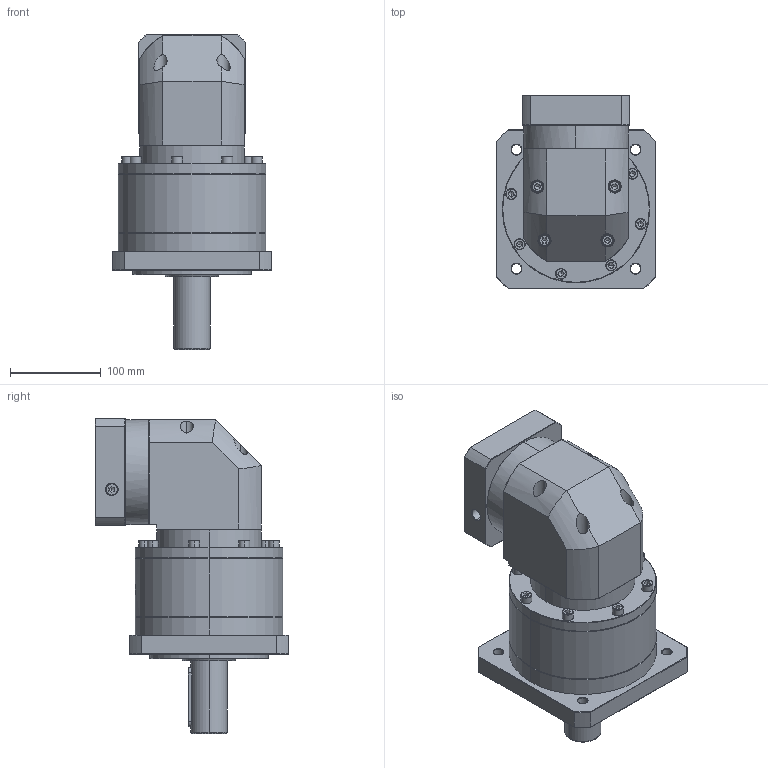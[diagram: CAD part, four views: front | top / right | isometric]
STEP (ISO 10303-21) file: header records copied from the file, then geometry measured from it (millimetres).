
FILE_DESCRIPTION (( 'STEP AP214' ), '1' );
FILE_NAME ('ZFR160A-D40-L2-P2-24-95-115-M6.step', '2023-09-03T09:40:53', ( '' ), ( '' ), 'SwSTEP 2.0', 'SolidWorks 2016', '' );
FILE_SCHEMA (( 'AUTOMOTIVE_DESIGN' ));
Length unit declared in the file: millimetre
Products named in the file (1): ZFR160A-D40-L2-P2-24-95-115-M6
Bounding box: 175 x 212.4 x 346.2 mm (x, y, z)
Volume: 4926010 mm3; surface area: 335388.8 mm2
Topology: 6 solids, 6 shells, 2459 faces, 6435 edges, 4102 vertices
Faces by surface type: plane 1145, cylinder 484, bspline 414, cone 370, torus 46
Entity records: 133333 total; most frequent: CARTESIAN_POINT 51102, ORIENTED_EDGE 12762, DIRECTION 9717, EDGE_CURVE 6381, VERTEX_POINT 4102, VECTOR 3421, LINE 3421, AXIS2_PLACEMENT_3D 3148
